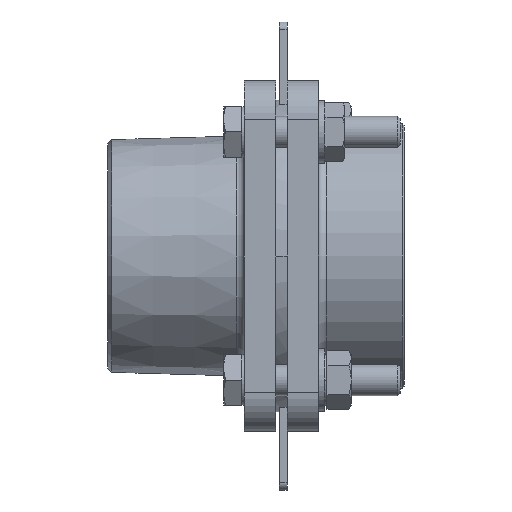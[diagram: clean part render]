
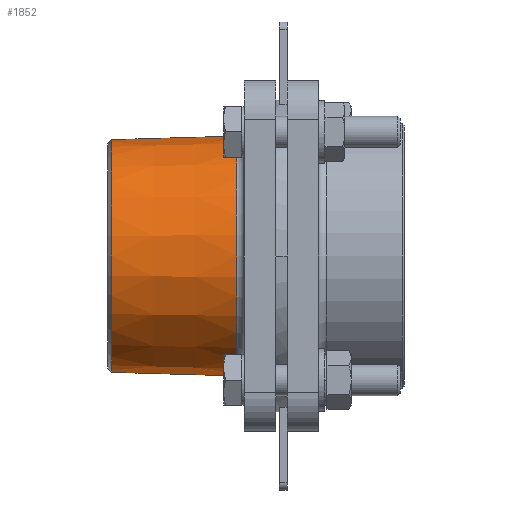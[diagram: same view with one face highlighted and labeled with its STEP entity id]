
A CAD part, left-side view. The second image highlights one B-rep face of the part: STEP entity #1852.
In plain terms, the highlighted conical face has half-angle 1.637 degrees and reference radius 30.744 mm.
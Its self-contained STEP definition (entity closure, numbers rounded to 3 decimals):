
#44 = CIRCLE ( 'NONE', #4312, 29.829 ) ;
#85 = CIRCLE ( 'NONE', #2835, 30.744 ) ;
#92 = LINE ( 'NONE', #2348, #94 ) ;
#94 = VECTOR ( 'NONE', #2349, 1000. ) ;
#95 = LINE ( 'NONE', #2353, #97 ) ;
#97 = VECTOR ( 'NONE', #2354, 1000. ) ;
#742 = ORIENTED_EDGE ( 'NONE', *, *, #1082, .F. ) ;
#743 = ORIENTED_EDGE ( 'NONE', *, *, #1044, .T. ) ;
#744 = ORIENTED_EDGE ( 'NONE', *, *, #1080, .T. ) ;
#745 = ORIENTED_EDGE ( 'NONE', *, *, #1077, .F. ) ;
#1044 = EDGE_CURVE ( 'NONE', #1356, #14306, #44, .T. ) ;
#1077 = EDGE_CURVE ( 'NONE', #14297, #14294, #85, .T. ) ;
#1080 = EDGE_CURVE ( 'NONE', #14306, #14294, #92, .T. ) ;
#1082 = EDGE_CURVE ( 'NONE', #1356, #14297, #95, .T. ) ;
#1356 = VERTEX_POINT ( 'NONE', #7191 ) ;
#1852 = ADVANCED_FACE ( 'NONE', ( #6384 ), #6392, .T. ) ;
#2258 = CARTESIAN_POINT ( 'NONE',  ( 1.279, 36.025, 3.364 ) ) ;
#2259 = DIRECTION ( 'NONE',  ( 0., -1., 0. ) ) ;
#2260 = DIRECTION ( 'NONE',  ( 0., 0., 1. ) ) ;
#2345 = CARTESIAN_POINT ( 'NONE',  ( 1.279, 3.997, 3.364 ) ) ;
#2346 = DIRECTION ( 'NONE',  ( 0., -1., 0. ) ) ;
#2347 = DIRECTION ( 'NONE',  ( 0., 0., -1. ) ) ;
#2348 = CARTESIAN_POINT ( 'NONE',  ( 1.279, 3.997, -27.38 ) ) ;
#2349 = DIRECTION ( 'NONE',  ( 0., -1., -0.029 ) ) ;
#2353 = CARTESIAN_POINT ( 'NONE',  ( 1.279, 3.997, 34.109 ) ) ;
#2354 = DIRECTION ( 'NONE',  ( 0., -1., 0.029 ) ) ;
#2835 = AXIS2_PLACEMENT_3D ( 'NONE', #2345, #2346, #2347 ) ;
#3020 = AXIS2_PLACEMENT_3D ( 'NONE', #10690, #10691, #10700 ) ;
#4312 = AXIS2_PLACEMENT_3D ( 'NONE', #2258, #2259, #2260 ) ;
#6384 = FACE_OUTER_BOUND ( 'NONE', #12252, .T. ) ;
#6392 = CONICAL_SURFACE ( 'NONE', #3020, 30.744, 0.029 ) ;
#7191 = CARTESIAN_POINT ( 'NONE',  ( 1.279, 36.025, 33.194 ) ) ;
#10690 = CARTESIAN_POINT ( 'NONE',  ( 1.279, 3.997, 3.364 ) ) ;
#10691 = DIRECTION ( 'NONE',  ( 0., -1., 0. ) ) ;
#10700 = DIRECTION ( 'NONE',  ( 0., 0., -1. ) ) ;
#12252 = EDGE_LOOP ( 'NONE', ( #742, #743, #744, #745 ) ) ;
#13446 = CARTESIAN_POINT ( 'NONE',  ( 1.279, 3.997, -27.38 ) ) ;
#13449 = CARTESIAN_POINT ( 'NONE',  ( 1.279, 3.997, 34.109 ) ) ;
#13458 = CARTESIAN_POINT ( 'NONE',  ( 1.279, 36.025, -26.465 ) ) ;
#14294 = VERTEX_POINT ( 'NONE', #13446 ) ;
#14297 = VERTEX_POINT ( 'NONE', #13449 ) ;
#14306 = VERTEX_POINT ( 'NONE', #13458 ) ;
